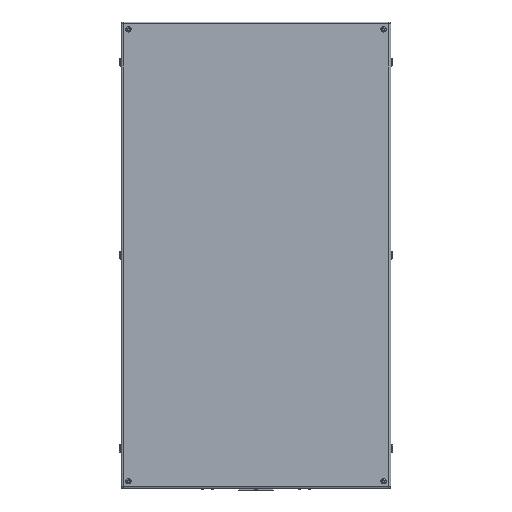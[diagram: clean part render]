
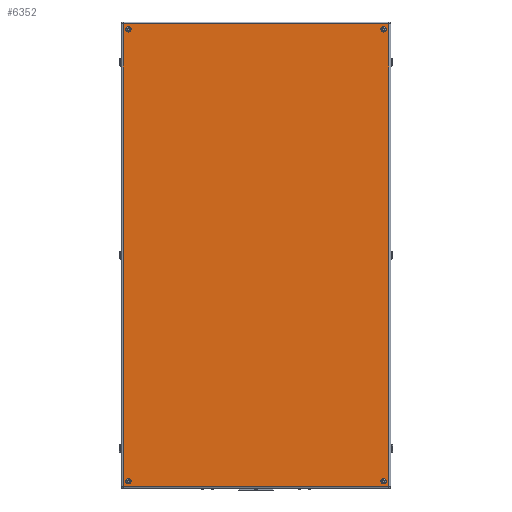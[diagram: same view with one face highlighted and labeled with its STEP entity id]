
A CAD part, front view. The second image highlights one B-rep face of the part: STEP entity #6352.
In plain terms, the highlighted planar face has unit normal (0, -1, 0).
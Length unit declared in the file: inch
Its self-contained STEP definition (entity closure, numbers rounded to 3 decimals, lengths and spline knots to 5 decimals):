
#124 = ORIENTED_EDGE ( 'NONE', *, *, #5217, .T. ) ;
#184 = DIRECTION ( 'NONE',  ( 1., 0., 0. ) ) ;
#201 = CARTESIAN_POINT ( 'NONE',  ( 17.5, -14., 31. ) ) ;
#327 = CIRCLE ( 'NONE', #2716, 0.37402 ) ;
#485 = CARTESIAN_POINT ( 'NONE',  ( -18.234, -14., -31.734 ) ) ;
#650 = VECTOR ( 'NONE', #3671, 39.37008 ) ;
#1174 = AXIS2_PLACEMENT_3D ( 'NONE', #3997, #1827, #15475 ) ;
#1422 = CARTESIAN_POINT ( 'NONE',  ( 18.234, -14., 31.734 ) ) ;
#1560 = EDGE_LOOP ( 'NONE', ( #14958, #124, #3232, #4206 ) ) ;
#1603 = EDGE_LOOP ( 'NONE', ( #6910, #7798 ) ) ;
#1607 = CARTESIAN_POINT ( 'NONE',  ( 18.234, -14., 31.734 ) ) ;
#1609 = DIRECTION ( 'NONE',  ( 0., 0., 1. ) ) ;
#1684 = CIRCLE ( 'NONE', #9152, 0.37402 ) ;
#1723 = VERTEX_POINT ( 'NONE', #6331 ) ;
#1827 = DIRECTION ( 'NONE',  ( 0., -1., 0. ) ) ;
#2515 = CARTESIAN_POINT ( 'NONE',  ( -17.5, -14., 31.37402 ) ) ;
#2667 = LINE ( 'NONE', #7778, #2687 ) ;
#2687 = VECTOR ( 'NONE', #184, 39.37008 ) ;
#2716 = AXIS2_PLACEMENT_3D ( 'NONE', #3153, #11991, #15728 ) ;
#2976 = EDGE_CURVE ( 'NONE', #1723, #7267, #11586, .T. ) ;
#3008 = CIRCLE ( 'NONE', #1174, 0.37402 ) ;
#3153 = CARTESIAN_POINT ( 'NONE',  ( -17.5, -14., 31. ) ) ;
#3199 = EDGE_CURVE ( 'NONE', #12713, #10156, #9868, .T. ) ;
#3232 = ORIENTED_EDGE ( 'NONE', *, *, #3199, .T. ) ;
#3331 = ORIENTED_EDGE ( 'NONE', *, *, #15458, .F. ) ;
#3390 = ORIENTED_EDGE ( 'NONE', *, *, #11179, .F. ) ;
#3531 = CARTESIAN_POINT ( 'NONE',  ( 0., -14., 0. ) ) ;
#3648 = DIRECTION ( 'NONE',  ( 0., 0., 1. ) ) ;
#3671 = DIRECTION ( 'NONE',  ( 0., 0., 1. ) ) ;
#3941 = VERTEX_POINT ( 'NONE', #6894 ) ;
#3997 = CARTESIAN_POINT ( 'NONE',  ( 17.5, -14., -31. ) ) ;
#4110 = EDGE_CURVE ( 'NONE', #8452, #7507, #16369, .T. ) ;
#4151 = VERTEX_POINT ( 'NONE', #16287 ) ;
#4206 = ORIENTED_EDGE ( 'NONE', *, *, #11221, .T. ) ;
#4292 = EDGE_CURVE ( 'NONE', #4151, #14271, #3008, .T. ) ;
#4708 = FACE_BOUND ( 'NONE', #6667, .T. ) ;
#4749 = LINE ( 'NONE', #16189, #10616 ) ;
#4762 = CARTESIAN_POINT ( 'NONE',  ( -17.5, -14., 31. ) ) ;
#4875 = DIRECTION ( 'NONE',  ( 0., 0., -1. ) ) ;
#4889 = CARTESIAN_POINT ( 'NONE',  ( 18.234, -14., -31.734 ) ) ;
#5132 = AXIS2_PLACEMENT_3D ( 'NONE', #4762, #8606, #12586 ) ;
#5217 = EDGE_CURVE ( 'NONE', #7507, #12713, #4749, .T. ) ;
#5252 = VERTEX_POINT ( 'NONE', #16111 ) ;
#5385 = ORIENTED_EDGE ( 'NONE', *, *, #14546, .F. ) ;
#5402 = AXIS2_PLACEMENT_3D ( 'NONE', #3531, #12605, #13688 ) ;
#5628 = CARTESIAN_POINT ( 'NONE',  ( -18.234, -14., 31.734 ) ) ;
#5709 = DIRECTION ( 'NONE',  ( 0., 0., 1. ) ) ;
#6033 = CARTESIAN_POINT ( 'NONE',  ( -17.5, -14., -31. ) ) ;
#6158 = AXIS2_PLACEMENT_3D ( 'NONE', #6033, #9851, #10102 ) ;
#6221 = CARTESIAN_POINT ( 'NONE',  ( -17.5, -14., -30.62598 ) ) ;
#6324 = CARTESIAN_POINT ( 'NONE',  ( -17.5, -14., -31. ) ) ;
#6331 = CARTESIAN_POINT ( 'NONE',  ( -17.5, -14., -31.37402 ) ) ;
#6352 = ADVANCED_FACE ( 'NONE', ( #4708, #14763, #15010, #13848, #16314 ), #14927, .T. ) ;
#6667 = EDGE_LOOP ( 'NONE', ( #3331, #7746 ) ) ;
#6894 = CARTESIAN_POINT ( 'NONE',  ( 17.5, -14., 31.37402 ) ) ;
#6910 = ORIENTED_EDGE ( 'NONE', *, *, #9501, .F. ) ;
#7250 = AXIS2_PLACEMENT_3D ( 'NONE', #201, #10686, #1609 ) ;
#7267 = VERTEX_POINT ( 'NONE', #6221 ) ;
#7507 = VERTEX_POINT ( 'NONE', #1607 ) ;
#7746 = ORIENTED_EDGE ( 'NONE', *, *, #11723, .F. ) ;
#7778 = CARTESIAN_POINT ( 'NONE',  ( 18.234, -14., -31.734 ) ) ;
#7798 = ORIENTED_EDGE ( 'NONE', *, *, #4292, .F. ) ;
#8279 = CIRCLE ( 'NONE', #10147, 0.37402 ) ;
#8429 = DIRECTION ( 'NONE',  ( 0., -1., 0. ) ) ;
#8452 = VERTEX_POINT ( 'NONE', #4889 ) ;
#8606 = DIRECTION ( 'NONE',  ( 0., -1., 0. ) ) ;
#8708 = CARTESIAN_POINT ( 'NONE',  ( -18.234, -14., -31.734 ) ) ;
#9152 = AXIS2_PLACEMENT_3D ( 'NONE', #10912, #8429, #5709 ) ;
#9501 = EDGE_CURVE ( 'NONE', #14271, #4151, #8279, .T. ) ;
#9614 = CIRCLE ( 'NONE', #5132, 0.37402 ) ;
#9851 = DIRECTION ( 'NONE',  ( 0., -1., 0. ) ) ;
#9868 = LINE ( 'NONE', #8708, #11821 ) ;
#10102 = DIRECTION ( 'NONE',  ( 0., 0., -1. ) ) ;
#10147 = AXIS2_PLACEMENT_3D ( 'NONE', #12715, #12461, #3648 ) ;
#10156 = VERTEX_POINT ( 'NONE', #485 ) ;
#10215 = DIRECTION ( 'NONE',  ( 0., -1., 0. ) ) ;
#10367 = VERTEX_POINT ( 'NONE', #16265 ) ;
#10616 = VECTOR ( 'NONE', #10993, 39.37008 ) ;
#10686 = DIRECTION ( 'NONE',  ( 0., -1., 0. ) ) ;
#10912 = CARTESIAN_POINT ( 'NONE',  ( 17.5, -14., 31. ) ) ;
#10993 = DIRECTION ( 'NONE',  ( -1., 0., 0. ) ) ;
#11179 = EDGE_CURVE ( 'NONE', #7267, #1723, #13303, .T. ) ;
#11221 = EDGE_CURVE ( 'NONE', #10156, #8452, #2667, .T. ) ;
#11347 = ORIENTED_EDGE ( 'NONE', *, *, #12727, .F. ) ;
#11586 = CIRCLE ( 'NONE', #13442, 0.37402 ) ;
#11723 = EDGE_CURVE ( 'NONE', #5252, #3941, #14384, .T. ) ;
#11821 = VECTOR ( 'NONE', #4875, 39.37008 ) ;
#11991 = DIRECTION ( 'NONE',  ( 0., -1., 0. ) ) ;
#12003 = VERTEX_POINT ( 'NONE', #2515 ) ;
#12092 = CARTESIAN_POINT ( 'NONE',  ( 17.5, -14., -30.62598 ) ) ;
#12461 = DIRECTION ( 'NONE',  ( 0., -1., 0. ) ) ;
#12586 = DIRECTION ( 'NONE',  ( 0., 0., -1. ) ) ;
#12605 = DIRECTION ( 'NONE',  ( 0., -1., 0. ) ) ;
#12713 = VERTEX_POINT ( 'NONE', #5628 ) ;
#12715 = CARTESIAN_POINT ( 'NONE',  ( 17.5, -14., -31. ) ) ;
#12727 = EDGE_CURVE ( 'NONE', #10367, #12003, #327, .T. ) ;
#13188 = ORIENTED_EDGE ( 'NONE', *, *, #2976, .F. ) ;
#13303 = CIRCLE ( 'NONE', #6158, 0.37402 ) ;
#13442 = AXIS2_PLACEMENT_3D ( 'NONE', #6324, #10215, #15271 ) ;
#13688 = DIRECTION ( 'NONE',  ( 0., 0., -1. ) ) ;
#13848 = FACE_BOUND ( 'NONE', #15594, .T. ) ;
#14271 = VERTEX_POINT ( 'NONE', #12092 ) ;
#14384 = CIRCLE ( 'NONE', #7250, 0.37402 ) ;
#14546 = EDGE_CURVE ( 'NONE', #12003, #10367, #9614, .T. ) ;
#14763 = FACE_BOUND ( 'NONE', #1603, .T. ) ;
#14927 = PLANE ( 'NONE',  #5402 ) ;
#14958 = ORIENTED_EDGE ( 'NONE', *, *, #4110, .T. ) ;
#15010 = FACE_BOUND ( 'NONE', #16419, .T. ) ;
#15271 = DIRECTION ( 'NONE',  ( 0., 0., -1. ) ) ;
#15458 = EDGE_CURVE ( 'NONE', #3941, #5252, #1684, .T. ) ;
#15475 = DIRECTION ( 'NONE',  ( 0., 0., 1. ) ) ;
#15594 = EDGE_LOOP ( 'NONE', ( #3390, #13188 ) ) ;
#15728 = DIRECTION ( 'NONE',  ( 0., 0., -1. ) ) ;
#16111 = CARTESIAN_POINT ( 'NONE',  ( 17.5, -14., 30.62598 ) ) ;
#16189 = CARTESIAN_POINT ( 'NONE',  ( -18.234, -14., 31.734 ) ) ;
#16265 = CARTESIAN_POINT ( 'NONE',  ( -17.5, -14., 30.62598 ) ) ;
#16287 = CARTESIAN_POINT ( 'NONE',  ( 17.5, -14., -31.37402 ) ) ;
#16314 = FACE_OUTER_BOUND ( 'NONE', #1560, .T. ) ;
#16369 = LINE ( 'NONE', #1422, #650 ) ;
#16419 = EDGE_LOOP ( 'NONE', ( #5385, #11347 ) ) ;
